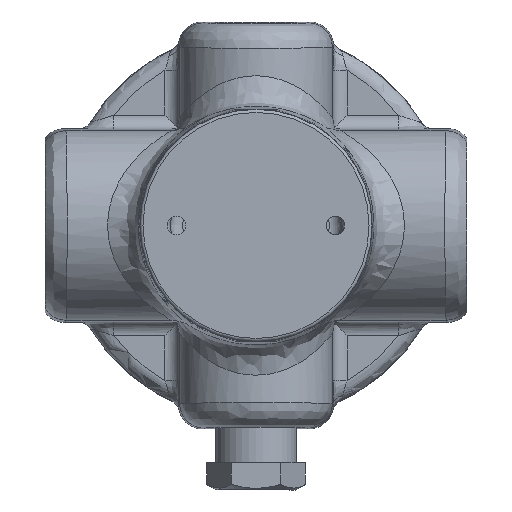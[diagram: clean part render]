
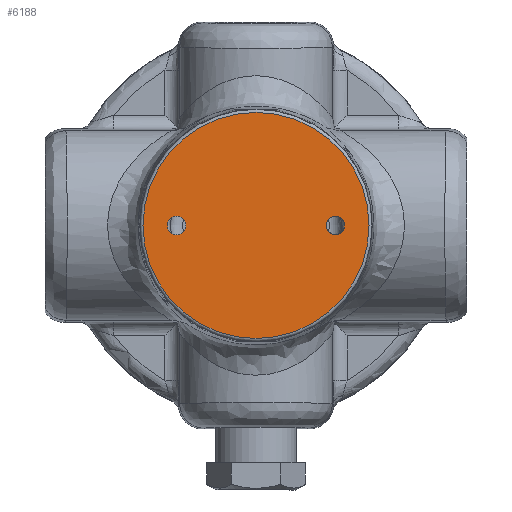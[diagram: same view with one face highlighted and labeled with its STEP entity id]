
A CAD part, front view. The second image highlights one B-rep face of the part: STEP entity #6188.
In plain terms, the highlighted planar face has unit normal (0, -1, 0).
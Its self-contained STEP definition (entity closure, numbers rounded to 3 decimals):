
#361=PLANE('',#7033);
#479=FACE_BOUND('',#1723,.T.);
#480=FACE_BOUND('',#1724,.T.);
#1361=FACE_OUTER_BOUND('',#1722,.T.);
#1722=EDGE_LOOP('',(#4830,#4831));
#1723=EDGE_LOOP('',(#4832,#4833));
#1724=EDGE_LOOP('',(#4834,#4835));
#2098=CIRCLE('',#7017,1.5);
#2099=CIRCLE('',#7018,1.5);
#2100=CIRCLE('',#7020,1.5);
#2101=CIRCLE('',#7021,1.5);
#2104=CIRCLE('',#7025,18.5);
#2105=CIRCLE('',#7026,18.5);
#2764=VERTEX_POINT('',#12283);
#2765=VERTEX_POINT('',#12284);
#2766=VERTEX_POINT('',#12289);
#2767=VERTEX_POINT('',#12290);
#2770=VERTEX_POINT('',#12298);
#2771=VERTEX_POINT('',#12300);
#3517=EDGE_CURVE('',#2764,#2765,#2098,.T.);
#3518=EDGE_CURVE('',#2765,#2764,#2099,.T.);
#3520=EDGE_CURVE('',#2766,#2767,#2100,.T.);
#3521=EDGE_CURVE('',#2767,#2766,#2101,.T.);
#3525=EDGE_CURVE('',#2770,#2771,#2104,.T.);
#3526=EDGE_CURVE('',#2771,#2770,#2105,.T.);
#4830=ORIENTED_EDGE('',*,*,#3526,.F.);
#4831=ORIENTED_EDGE('',*,*,#3525,.F.);
#4832=ORIENTED_EDGE('',*,*,#3517,.T.);
#4833=ORIENTED_EDGE('',*,*,#3518,.T.);
#4834=ORIENTED_EDGE('',*,*,#3520,.T.);
#4835=ORIENTED_EDGE('',*,*,#3521,.T.);
#6188=ADVANCED_FACE('',(#1361,#479,#480),#361,.T.);
#7017=AXIS2_PLACEMENT_3D('',#12285,#8088,#8089);
#7018=AXIS2_PLACEMENT_3D('',#12286,#8090,#8091);
#7020=AXIS2_PLACEMENT_3D('',#12291,#8095,#8096);
#7021=AXIS2_PLACEMENT_3D('',#12292,#8097,#8098);
#7025=AXIS2_PLACEMENT_3D('',#12301,#8106,#8107);
#7026=AXIS2_PLACEMENT_3D('',#12302,#8108,#8109);
#7033=AXIS2_PLACEMENT_3D('',#12314,#8123,#8124);
#8088=DIRECTION('center_axis',(0.,1.,0.));
#8089=DIRECTION('ref_axis',(1.,0.,0.));
#8090=DIRECTION('center_axis',(0.,1.,0.));
#8091=DIRECTION('ref_axis',(1.,0.,0.));
#8095=DIRECTION('center_axis',(0.,1.,0.));
#8096=DIRECTION('ref_axis',(1.,0.,0.));
#8097=DIRECTION('center_axis',(0.,1.,0.));
#8098=DIRECTION('ref_axis',(1.,0.,0.));
#8106=DIRECTION('center_axis',(0.,1.,0.));
#8107=DIRECTION('ref_axis',(1.,0.,0.));
#8108=DIRECTION('center_axis',(0.,1.,0.));
#8109=DIRECTION('ref_axis',(1.,0.,0.));
#8123=DIRECTION('center_axis',(0.,-1.,0.));
#8124=DIRECTION('ref_axis',(0.,0.,-1.));
#12283=CARTESIAN_POINT('',(1.5,0.,-13.));
#12284=CARTESIAN_POINT('',(-1.5,0.,-13.));
#12285=CARTESIAN_POINT('Origin',(0.,0.,
-13.));
#12286=CARTESIAN_POINT('Origin',(0.,0.,
-13.));
#12289=CARTESIAN_POINT('',(1.5,0.,13.));
#12290=CARTESIAN_POINT('',(-1.5,0.,13.));
#12291=CARTESIAN_POINT('Origin',(0.,0.,
13.));
#12292=CARTESIAN_POINT('Origin',(0.,0.,
13.));
#12298=CARTESIAN_POINT('',(0.,0.,-18.5));
#12300=CARTESIAN_POINT('',(-18.5,0.,0.));
#12301=CARTESIAN_POINT('Origin',(0.,0.,
0.));
#12302=CARTESIAN_POINT('Origin',(0.,0.,
0.));
#12314=CARTESIAN_POINT('Origin',(-9.5,0.,0.));
